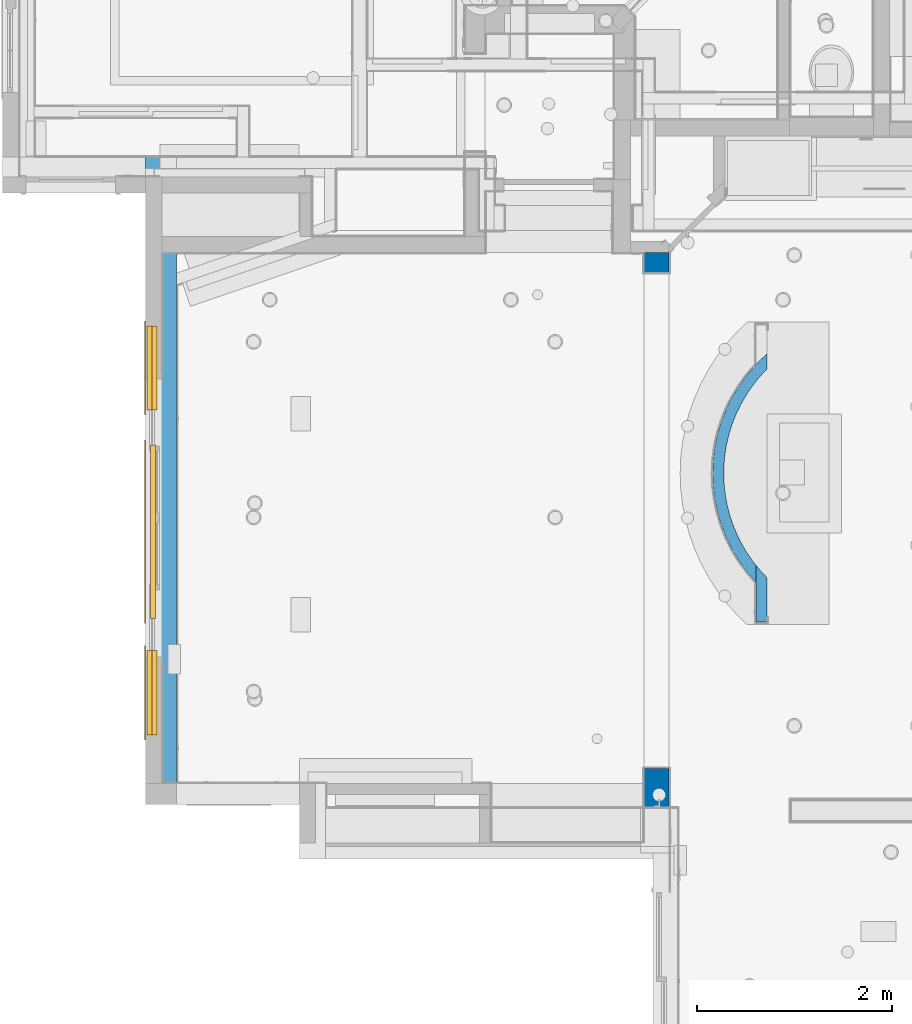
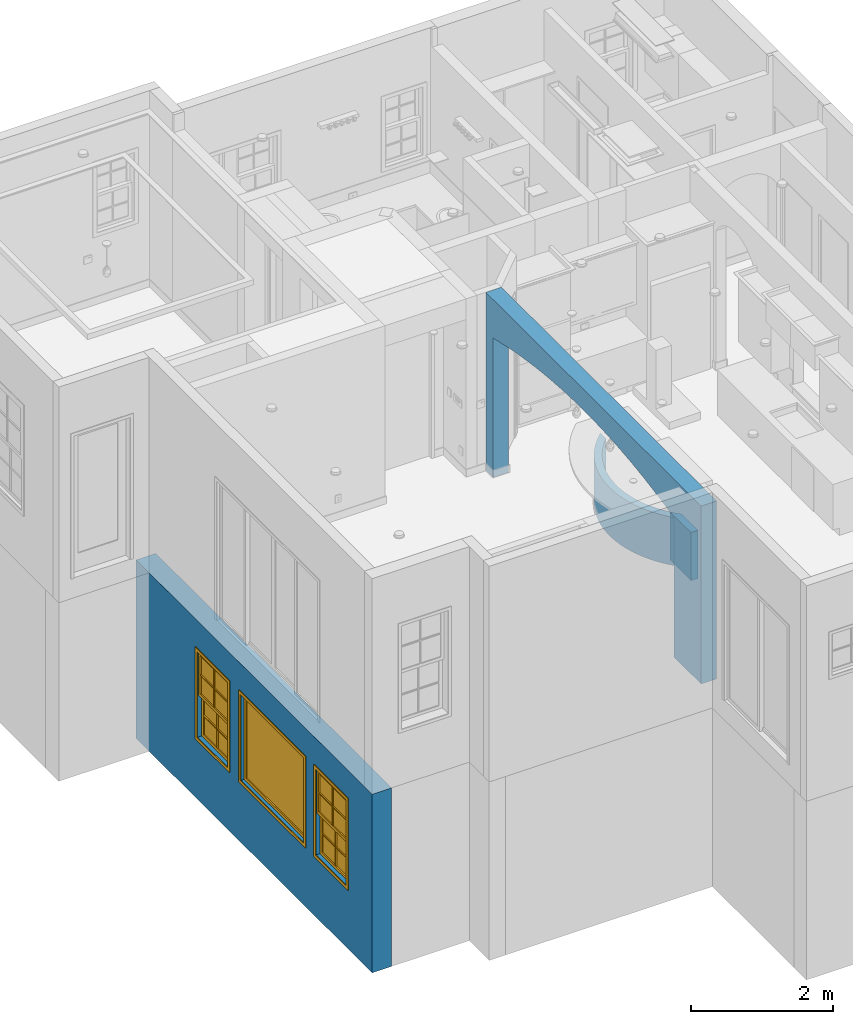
# One storey, part 3 of 81: 4 walls, 3 windows, 5 openings.
"""IFC2X3 building model written with IfcOpenShell, lengths in feet."""

from ifc_helpers import new_model, entity, si_unit, converted_unit, derived_unit, direction, frame, frame_2d, origin, origin_2d_with_axis, place, context, subcontext, project, spatial, polyline, circle_curve, parameter, trimmed, segment, composite_curve, rectangle, outline, extrude, source, transform, mapped, material, material_list, layer, layer_set, layer_usage, type_object, type_shapes, element, fill, save


model = new_model("IFC2X3")

# Units and contexts
model_context = context("Model", 3, precision=0.0001, world=origin(), true_north=direction((6.12303176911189e-17, 1.0)))
body_context = subcontext(model_context, "Body", "Model", "MODEL_VIEW")
ifc_project = project(units=[converted_unit("LENGTHUNIT", "FOOT", entity("IfcRatioMeasure", 0.3048), si_unit("LENGTHUNIT", "METRE"), dimensions=[1, 0, 0, 0, 0, 0, 0]), converted_unit("AREAUNIT", "SQUARE FOOT", entity("IfcRatioMeasure", 0.09290304), si_unit("AREAUNIT", "SQUARE_METRE"), dimensions=[2, 0, 0, 0, 0, 0, 0]), converted_unit("VOLUMEUNIT", "CUBIC FOOT", entity("IfcRatioMeasure", 0.028316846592), si_unit("VOLUMEUNIT", "CUBIC_METRE"), dimensions=[3, 0, 0, 0, 0, 0, 0]), converted_unit("PLANEANGLEUNIT", "DEGREE", entity("IfcRatioMeasure", 0.0174532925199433), si_unit("PLANEANGLEUNIT", "RADIAN"), dimensions=[0, 0, 0, 0, 0, 0, 0]), si_unit("MASSUNIT", "GRAM", prefix="KILO"), derived_unit("MASSDENSITYUNIT", [(si_unit("MASSUNIT", "GRAM", prefix="KILO"), 1), (si_unit("LENGTHUNIT", "METRE"), -3)]), derived_unit("MOMENTOFINERTIAUNIT", [(si_unit("LENGTHUNIT", "METRE"), 4)]), si_unit("TIMEUNIT", "SECOND"), si_unit("FREQUENCYUNIT", "HERTZ"), si_unit("THERMODYNAMICTEMPERATUREUNIT", "DEGREE_CELSIUS"), derived_unit("THERMALTRANSMITTANCEUNIT", [(si_unit("MASSUNIT", "GRAM", prefix="KILO"), 1), (si_unit("THERMODYNAMICTEMPERATUREUNIT", "KELVIN"), -1), (si_unit("TIMEUNIT", "SECOND"), -3)]), derived_unit("VOLUMETRICFLOWRATEUNIT", [(si_unit("LENGTHUNIT", "METRE"), 3), (si_unit("TIMEUNIT", "SECOND"), -1)]), si_unit("ELECTRICCURRENTUNIT", "AMPERE"), si_unit("ELECTRICVOLTAGEUNIT", "VOLT"), si_unit("POWERUNIT", "WATT"), si_unit("FORCEUNIT", "NEWTON"), si_unit("ILLUMINANCEUNIT", "LUX"), si_unit("LUMINOUSFLUXUNIT", "LUMEN"), si_unit("LUMINOUSINTENSITYUNIT", "CANDELA"), derived_unit("USERDEFINED", [(si_unit("MASSUNIT", "GRAM", prefix="KILO"), -1), (si_unit("LENGTHUNIT", "METRE"), -2), (si_unit("TIMEUNIT", "SECOND"), 3), (si_unit("LUMINOUSFLUXUNIT", "LUMEN"), 1)]), derived_unit("LINEARVELOCITYUNIT", [(si_unit("LENGTHUNIT", "METRE"), 1), (si_unit("TIMEUNIT", "SECOND"), -1)]), si_unit("PRESSUREUNIT", "PASCAL"), derived_unit("USERDEFINED", [(si_unit("LENGTHUNIT", "METRE"), -2), (si_unit("MASSUNIT", "GRAM", prefix="KILO"), 1), (si_unit("TIMEUNIT", "SECOND"), -2)]), derived_unit("LINEARFORCEUNIT", [(si_unit("MASSUNIT", "GRAM", prefix="KILO"), 1), (si_unit("LENGTHUNIT", "METRE"), 1), (si_unit("TIMEUNIT", "SECOND"), -2), (si_unit("LENGTHUNIT", "METRE"), -1)]), derived_unit("PLANARFORCEUNIT", [(si_unit("MASSUNIT", "GRAM", prefix="KILO"), 1), (si_unit("LENGTHUNIT", "METRE"), 1), (si_unit("TIMEUNIT", "SECOND"), -2), (si_unit("LENGTHUNIT", "METRE"), -2)])], contexts=[model_context])

# Site, building, storey
site_placement = place(None, origin())
site = spatial("IfcSite", under=ifc_project, at=site_placement, Name="Default", CompositionType="ELEMENT")
building_placement = place(site_placement, origin())
building = spatial("IfcBuilding", under=site, at=building_placement, CompositionType="ELEMENT")
storey_placement = place(building_placement, origin())
storey = spatial("IfcBuildingStorey", under=building, at=storey_placement, Name="First floor", CompositionType="ELEMENT", Elevation=0.0)

# Walls
ifc_material_1 = material(Name="Default New Material")
ifc_layer_1 = layer(ifc_material_1, 0.375)
ifc_layer_set_1 = layer_set([ifc_layer_1], Name="Basic Wall:Wall_4.5\"")
ifc_layer_usage_1 = layer_usage(ifc_layer_set_1, "AXIS2", "NEGATIVE", 0.1875)
wall_type_1 = type_object("IfcWallType", Name="Basic Wall:Wall_4.5\"", PredefinedType="STANDARD", material=ifc_layer_set_1)
wall_1_placement = place(storey_placement, frame((3.64583333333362, 16.625, 10.6666666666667), z_axis=(0.0, 0.0, 1.0), x_axis=(0.0, 1.0, 0.0)))
element("IfcWallStandardCase", 1, at=wall_1_placement, inside=storey, type_object=wall_type_1, material=ifc_layer_usage_1, Name="Basic Wall:Wall_4.5\"", ObjectType="Basic Wall:Wall_4.5\"", context=body_context, shape_type="SweptSolid", body=[
    extrude(outline(composite_curve([segment(trimmed(circle_curve(frame_2d((5.0, -3.68312523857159), x_axis=(0.0, -1.0)), 4.94665501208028), [parameter(218.512414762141)], [parameter(225.035830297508)], True, "PARAMETER"), False, "CONTINUOUS"), segment(polyline([(1.91979609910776, 0.1875), (1.34784004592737, 0.1875)]), True, "CONTINUOUS"), segment(polyline([(1.34784004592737, 0.1875), (0.0, 0.1875)]), True, "CONTINUOUS"), segment(polyline([(0.0, 0.1875), (0.0, -0.1875)]), True, "CONTINUOUS"), segment(polyline([(0.0, -0.1875), (1.49999999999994, -0.1875)]), True, "CONTINUOUS")], self_intersect=False)), origin(), (0.0, 0.0, 1.0), 2.70833333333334),
])
ifc_layer_usage_2 = layer_usage(ifc_layer_set_1, "AXIS2", "POSITIVE", -0.1875)
wall_2_placement = place(storey_placement, frame((3.59470862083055, 18.1015180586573, 10.6666666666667)))
element("IfcWallStandardCase", 2, at=wall_2_placement, inside=storey, type_object=wall_type_1, material=ifc_layer_usage_2, Name="Basic Wall:Wall_4.5\"", ObjectType="Basic Wall:Wall_4.5\"", context=body_context, shape_type="SweptSolid", body=[
    extrude(outline(composite_curve([segment(polyline([(0.23862471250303, 7.53603926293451), (0.0466515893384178, 7.36035962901)]), True, "CONTINUOUS"), segment(polyline([(0.0466515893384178, 7.36035962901), (-0.136340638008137, 7.17567608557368)]), True, "CONTINUOUS"), segment(polyline([(-0.136340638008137, 7.17567608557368), (-0.429268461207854, 6.83786370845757)]), True, "CONTINUOUS"), segment(polyline([(-0.429268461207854, 6.83786370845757), (-0.692789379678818, 6.47667256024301)]), True, "CONTINUOUS"), segment(polyline([(-0.692789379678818, 6.47667256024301), (-0.925061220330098, 6.09463566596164)]), True, "CONTINUOUS"), segment(polyline([(-0.925061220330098, 6.09463566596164), (-1.12444442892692, 5.69444969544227)]), True, "CONTINUOUS"), segment(polyline([(-1.12444442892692, 5.69444969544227), (-1.28953160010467, 5.27893942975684)]), True, "CONTINUOUS"), segment(polyline([(-1.28953160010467, 5.27893942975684), (-1.41915741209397, 4.85103782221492)]), True, "CONTINUOUS"), segment(polyline([(-1.41915741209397, 4.85103782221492), (-1.51240685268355, 4.41376529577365)]), True, "CONTINUOUS"), segment(polyline([(-1.51240685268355, 4.41376529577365), (-1.56862167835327, 3.97020842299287)]), True, "CONTINUOUS"), segment(polyline([(-1.56862167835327, 3.97020842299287), (-1.58740506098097, 3.52349813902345)]), True, "CONTINUOUS"), segment(polyline([(-1.58740506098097, 3.52349813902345), (-1.56862438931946, 3.07678764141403)]), True, "CONTINUOUS"), segment(polyline([(-1.56862438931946, 3.07678764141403), (-1.51241220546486, 2.63323013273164)]), True, "CONTINUOUS"), segment(polyline([(-1.51241220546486, 2.63323013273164), (-1.41916526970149, 2.19595656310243)]), True, "CONTINUOUS"), segment(polyline([(-1.41916526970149, 2.19595656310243), (-1.28954176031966, 1.76805352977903)]), True, "CONTINUOUS"), segment(polyline([(-1.28954176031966, 1.76805352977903), (-1.12445662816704, 1.35254148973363)]), True, "CONTINUOUS"), segment(polyline([(-1.12445662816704, 1.35254148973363), (-0.925075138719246, 0.952353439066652)]), True, "CONTINUOUS"), segment(polyline([(-0.925075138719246, 0.952353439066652), (-0.692804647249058, 0.570314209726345)]), True, "CONTINUOUS"), segment(polyline([(-0.692804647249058, 0.570314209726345), (-0.429284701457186, 0.209120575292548)]), True, "CONTINUOUS"), segment(polyline([(-0.429284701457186, 0.209120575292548), (-0.136375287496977, -0.1286780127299)]), True, "CONTINUOUS"), segment(polyline([(-0.136375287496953, -0.128678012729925), (-0.136375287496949, 0.443278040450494)]), True, "CONTINUOUS"), segment(trimmed(circle_curve(frame_2d((3.73424995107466, 3.52348194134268), x_axis=(1.0, 0.0)), 4.94665501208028), [parameter(134.964169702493)], [parameter(218.512414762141)], True, "PARAMETER"), False, "CONTINUOUS"), segment(polyline([(0.238624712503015, 7.02348194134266), (0.238624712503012, 7.53603926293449)]), True, "CONTINUOUS")], self_intersect=False)), origin(), (0.0, 0.0, 1.0), 2.70833333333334),
])

# Wall, openings
ifc_layer_2 = layer(ifc_material_1, 0.833333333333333)
ifc_layer_set_2 = layer_set([ifc_layer_2], Name="Basic Wall:Wall_10\"")
ifc_layer_usage_3 = layer_usage(ifc_layer_set_2, "AXIS2", "POSITIVE", -0.416666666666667)
wall_type_2 = type_object("IfcWallType", Name="Basic Wall:Wall_10\"", PredefinedType="STANDARD", material=ifc_layer_set_2)
wall_3_placement = place(storey_placement, frame((0.125000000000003, 9.20833333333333, 10.6666666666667), z_axis=(0.0, 0.0, 1.0), x_axis=(0.0, 1.0, 0.0)))
wall_3 = element("IfcWallStandardCase", 3, at=wall_3_placement, inside=storey, type_object=wall_type_2, material=ifc_layer_usage_3, Name="Basic Wall:Wall_10\"", ObjectType="Basic Wall:Wall_10\"", context=body_context, shape_type="SweptSolid", body=[
    extrude(rectangle(XDim=19.8333333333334, YDim=0.833333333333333, at=frame_2d((9.91666666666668, -8.32667268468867e-17), x_axis=(-1.0, 0.0))), origin(), (0.0, 0.0, 1.0), 10.0),
])
opening_1_placement = place(wall_3_placement, origin())
element("IfcOpeningElement", 4, at=opening_1_placement, cuts=wall_3, Name="Basic Wall:Wall_10\"", ObjectType="Opening", context=body_context, shape_type="SweptSolid", body=[
    extrude(outline(composite_curve([segment(trimmed(circle_curve(frame_2d((30.3055555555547, 0.0), x_axis=(1.0, 0.0)), 35.2222222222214), [parameter(166.314453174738)], [parameter(193.685546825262)], True, "PARAMETER"), True, "CONTINUOUS"), segment(polyline([(-3.91666666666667, -8.33333333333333), (3.91666666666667, -8.33333333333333)]), True, "CONTINUOUS"), segment(polyline([(3.91666666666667, -8.33333333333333), (3.91666666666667, 8.33333333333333)]), True, "CONTINUOUS"), segment(polyline([(3.91666666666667, 8.33333333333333), (-3.91666666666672, 8.33333333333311)]), True, "CONTINUOUS")], self_intersect=False)), frame((10.8333333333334, -0.416666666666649, 3.91666666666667), z_axis=(0.0, 1.0, 0.0), x_axis=(0.0, 0.0, -1.0)), (0.0, 0.0, 1.0), 0.833333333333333),
])
opening_2_placement = place(wall_3_placement, origin())
element("IfcOpeningElement", 5, at=opening_2_placement, cuts=wall_3, Name="Basic Wall:Wall_10\"", ObjectType="Recess", context=body_context, shape_type="SweptSolid", body=[
    extrude(rectangle(XDim=8.0, YDim=2.0, at=frame_2d((-1.99840144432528e-15, -8.88178419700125e-16), x_axis=(0.0, 1.0))), frame((20.6878439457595, -1.27117727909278, 4.0), z_axis=(0.707106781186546, 0.707106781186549, 0.0), x_axis=(-0.707106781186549, 0.707106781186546, 0.0)), (0.0, 0.0, 1.0), 0.374999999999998),
])

# Wall, openings, windows
ifc_layer_3 = layer(ifc_material_1, 1.04166666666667)
ifc_layer_set_3 = layer_set([ifc_layer_3], Name="Basic Wall:Wall_1'1/2\"")
ifc_layer_usage_4 = layer_usage(ifc_layer_set_3, "AXIS2", "POSITIVE", -0.520833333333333)
wall_type_3 = type_object("IfcWallType", Name="Basic Wall:Wall_1'1/2\"", PredefinedType="STANDARD", material=ifc_layer_set_3)
wall_4_placement = place(storey_placement, frame((-16.5208333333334, 32.25, -0.5), z_axis=(0.0, 0.0, 1.0), x_axis=(0.0, -1.0, 0.0)))
wall_4 = element("IfcWallStandardCase", 6, at=wall_4_placement, inside=storey, type_object=wall_type_3, material=ifc_layer_usage_4, Name="Basic Wall:Wall_1'1/2\"", ObjectType="Basic Wall:Wall_1'1/2\"", context=body_context, shape_type="SweptSolid", body=[
    extrude(rectangle(XDim=21.75, YDim=1.04166666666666, at=frame_2d((10.875, 0.0), x_axis=(-1.0, 0.0))), origin(), (0.0, 0.0, 1.0), 10.0416666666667),
])
opening_3_placement = place(wall_4_placement, frame((19.4166666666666, 0.520833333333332, 3.5)))
opening_3 = element("IfcOpeningElement", 7, at=opening_3_placement, cuts=wall_4, Name="Window_4:2'-10\" X 4'-10\":1", ObjectType="Opening", context=body_context, shape_type="SweptSolid", body=[
    extrude(rectangle(XDim=4.83333333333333, YDim=2.83333333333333, at=frame_2d((2.41666666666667, 1.41666666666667), x_axis=(-1.0, 0.0))), frame((0.0, 0.0, 0.0), z_axis=(0.0, -1.0, 0.0), x_axis=(0.0, 0.0, 1.0)), (0.0, 0.0, 1.0), 1.04166666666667),
])
opening_4_placement = place(wall_4_placement, frame((15.5, 0.520833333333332, 3.5)))
opening_4 = element("IfcOpeningElement", 8, at=opening_4_placement, cuts=wall_4, Name="Window_1:5'-10\" X 4'-10\":1", ObjectType="Opening", context=body_context, shape_type="SweptSolid", body=[
    extrude(rectangle(XDim=4.83333333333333, YDim=5.83333333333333, at=frame_2d((2.41666666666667, 2.91666666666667), x_axis=(-1.0, 0.0))), frame((0.0, 0.0, 0.0), z_axis=(0.0, -1.0, 0.0), x_axis=(0.0, 0.0, 1.0)), (0.0, 0.0, 1.0), 1.04166666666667),
])
opening_5_placement = place(wall_4_placement, frame((8.49999999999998, 0.520833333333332, 3.5)))
opening_5 = element("IfcOpeningElement", 9, at=opening_5_placement, cuts=wall_4, Name="Window_4:2'-10\" X 4'-10\":1", ObjectType="Opening", context=body_context, shape_type="SweptSolid", body=[
    extrude(rectangle(XDim=4.83333333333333, YDim=2.83333333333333, at=frame_2d((2.41666666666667, 1.41666666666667), x_axis=(-1.0, 0.0))), frame((0.0, 0.0, 0.0), z_axis=(0.0, -1.0, 0.0), x_axis=(0.0, 0.0, 1.0)), (0.0, 0.0, 1.0), 1.04166666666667),
])
ifc_material_2 = material(Name="Glass")
ifc_material_list_1 = material_list([ifc_material_1, ifc_material_2])
ifc_material_3 = material(Name="Trim")
ifc_material_4 = material(Name="Sash")
ifc_material_list_2 = material_list([ifc_material_2, ifc_material_3, ifc_material_3, ifc_material_4, ifc_material_1])
window_style_1 = type_object("IfcWindowStyle", Name="Window_4:2'-10\" X 4'-10\"", ConstructionType="NOTDEFINED", OperationType="NOTDEFINED", ParameterTakesPrecedence=False, Sizeable=False, material=ifc_material_list_2)
shared_shape_1 = source(origin(), body_context, "Body", "SweptSolid", [
    extrude(outline(polyline([(-1.41666666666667, -1.24479166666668), (1.41666666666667, -1.24479166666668), (1.41666666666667, 1.24479166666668), (-1.41666666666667, 1.24479166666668), (-1.41666666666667, -1.24479166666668)]), holes=[polyline([(0.0247395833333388, -1.078125), (0.0247395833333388, -0.0130208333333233), (1.25, -0.0130208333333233), (1.25, -1.078125), (0.0247395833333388, -1.078125)]), polyline([(0.0247395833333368, 1.07812500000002), (1.25, 1.07812500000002), (1.25, 0.0364583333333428), (0.0247395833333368, 0.0364583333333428), (0.0247395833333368, 1.07812500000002)]), polyline([(-1.24999999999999, -0.0130208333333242), (-0.0247395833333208, -0.0130208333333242), (-0.0247395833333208, -1.078125), (-1.24999999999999, -1.078125), (-1.24999999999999, -0.0130208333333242)]), polyline([(-1.24999999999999, 1.07812499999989), (-0.0247395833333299, 1.07812499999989), (-0.0247395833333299, 0.0364583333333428), (-1.24999999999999, 0.0364583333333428), (-1.24999999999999, 1.07812499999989)])]), frame((1.41666666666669, 1.0, 3.58854166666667), z_axis=(0.0, -1.0, 0.0), x_axis=(-1.0, 0.0, 0.0)), (0.0, 0.0, 1.0), 0.166666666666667),
    extrude(rectangle(XDim=1.22526041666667, YDim=0.0435871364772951, at=frame_2d((0.0, 2.77555756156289e-17), x_axis=(1.0, 0.0))), frame((0.779296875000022, 0.917626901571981, 3.6015625)), (0.0, 0.0, 1.0), 1.06510416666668),
    extrude(rectangle(XDim=1.22526041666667, YDim=0.0435871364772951, at=frame_2d((5.55111512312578e-17, 2.77555756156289e-17), x_axis=(1.0, 0.0))), frame((2.05403645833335, 0.917626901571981, 3.6015625)), (0.0, 0.0, 1.0), 1.06510416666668),
    extrude(rectangle(XDim=1.22526041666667, YDim=0.0435871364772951, at=frame_2d((0.0, 2.77555756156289e-17), x_axis=(1.0, 0.0))), frame((0.779296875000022, 0.917626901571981, 2.51041666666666)), (0.0, 0.0, 1.0), 1.04166666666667),
    extrude(rectangle(XDim=1.22526041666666, YDim=0.0435871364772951, at=frame_2d((-1.11022302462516e-16, 2.77555756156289e-17), x_axis=(1.0, 0.0))), frame((2.05403645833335, 0.917626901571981, 2.51041666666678)), (0.0, 0.0, 1.0), 1.04166666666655),
    extrude(rectangle(XDim=1.22526041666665, YDim=0.0416666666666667, at=origin_2d_with_axis()), frame((2.05403645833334, 0.75, 0.166666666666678), z_axis=(0.0, 0.0, 1.0), x_axis=(-1.0, 0.0, 0.0)), (0.0, 0.0, 1.0), 1.04166666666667),
    extrude(rectangle(XDim=1.22526041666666, YDim=0.0416666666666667, at=origin_2d_with_axis()), frame((0.779296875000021, 0.75, 1.25781250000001), z_axis=(0.0, 0.0, 1.0), x_axis=(-1.0, 0.0, 0.0)), (0.0, 0.0, 1.0), 1.08593749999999),
    extrude(rectangle(XDim=1.22526041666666, YDim=0.0416666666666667, at=origin_2d_with_axis()), frame((0.779296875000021, 0.75, 0.166666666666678), z_axis=(0.0, 0.0, 1.0), x_axis=(-1.0, 0.0, 0.0)), (0.0, 0.0, 1.0), 1.04166666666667),
    extrude(rectangle(XDim=1.22526041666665, YDim=0.0416666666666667, at=origin_2d_with_axis()), frame((2.05403645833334, 0.75, 1.25781250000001), z_axis=(0.0, 0.0, 1.0), x_axis=(-1.0, 0.0, 0.0)), (0.0, 0.0, 1.0), 1.08593749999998),
    extrude(outline(polyline([(-1.41666666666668, -1.25520833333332), (1.41666666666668, -1.25520833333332), (1.41666666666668, 1.25520833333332), (-1.41666666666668, 1.25520833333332), (-1.41666666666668, -1.25520833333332)]), holes=[polyline([(-1.24999999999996, -0.0026041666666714), (-0.0247395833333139, -0.0026041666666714), (-0.0247395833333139, -1.08854166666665), (-1.24999999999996, -1.08854166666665), (-1.24999999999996, -0.0026041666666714)]), polyline([(0.0247395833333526, 1.08854166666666), (1.25000000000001, 1.08854166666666), (1.25000000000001, 0.0468749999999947), (0.0247395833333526, 0.0468749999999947), (0.0247395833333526, 1.08854166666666)]), polyline([(-1.24999999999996, 1.08854166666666), (-0.0247395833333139, 1.08854166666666), (-0.0247395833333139, 0.0468749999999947), (-1.24999999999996, 0.0468749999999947), (-1.24999999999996, 1.08854166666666)]), polyline([(0.0247395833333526, -1.08854166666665), (0.0247395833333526, -0.00260416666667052), (1.25000000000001, -0.00260416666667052), (1.25000000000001, -1.08854166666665), (0.0247395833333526, -1.08854166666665)])]), frame((1.4166666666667, 0.833333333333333, 1.25520833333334), z_axis=(0.0, -1.0, 0.0), x_axis=(-1.0, 0.0, 0.0)), (0.0, 0.0, 1.0), 0.166666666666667),
    extrude(outline(polyline([(-1.58333333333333, -2.58333333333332), (1.58333333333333, -2.58333333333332), (1.58333333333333, 2.58333333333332), (-1.58333333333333, 2.58333333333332), (-1.58333333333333, -2.58333333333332)]), holes=[polyline([(-1.41666666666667, -2.41666666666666), (-1.41666666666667, 2.41666666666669), (1.41666666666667, 2.41666666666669), (1.41666666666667, -2.41666666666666), (-1.41666666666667, -2.41666666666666)])]), frame((1.41666666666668, 0.0, 2.41666666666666), z_axis=(0.0, -1.0, 0.0), x_axis=(1.0, 0.0, 0.0)), (0.0, 0.0, 1.0), 0.0416666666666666),
    extrude(outline(polyline([(-1.58333333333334, -2.58333333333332), (1.58333333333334, -2.58333333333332), (1.58333333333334, 2.58333333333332), (-1.58333333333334, 2.58333333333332), (-1.58333333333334, -2.58333333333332)]), holes=[polyline([(-1.41666666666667, -2.41666666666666), (-1.41666666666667, 2.41666666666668), (1.41666666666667, 2.41666666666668), (1.41666666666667, -2.41666666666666), (-1.41666666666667, -2.41666666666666)])]), frame((1.41666666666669, 1.08333333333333, 2.41666666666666), z_axis=(0.0, -1.0, 0.0), x_axis=(1.0, 0.0, 0.0)), (0.0, 0.0, 1.0), 0.0416666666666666),
])
type_shapes(window_style_1, [shared_shape_1])
window_1_placement = place(opening_3_placement, frame((0.0, 0.0, 0.0), z_axis=(0.0, 0.0, 1.0), x_axis=(-1.0, 0.0, 0.0)))
window_1 = element("IfcWindow", 10, at=window_1_placement, inside=storey, type_object=window_style_1, material=ifc_material_list_1, Name="Window_4:2'-10\" X 4'-10\"", ObjectType="Window_4:2'-10\" X 4'-10\"", OverallHeight=4.83333333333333, OverallWidth=2.83333333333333, context=body_context, shape_type="MappedRepresentation", body=[
    mapped(shared_shape_1, transform((0.0, 0.0, 0.0), scale=1.0)),
])
fill(opening_3, window_1)
ifc_material_list_3 = material_list([ifc_material_2, ifc_material_1])
ifc_material_list_4 = material_list([ifc_material_1, ifc_material_1, ifc_material_2])
window_style_2 = type_object("IfcWindowStyle", Name="Window_1:5'-10\" X 4'-10\"", ConstructionType="NOTDEFINED", OperationType="NOTDEFINED", ParameterTakesPrecedence=False, Sizeable=False, material=ifc_material_list_4)
shared_shape_2 = source(origin(), body_context, "Body", "SweptSolid", [
    extrude(rectangle(XDim=0.0416666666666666, YDim=5.49999999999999, at=origin_2d_with_axis()), frame((2.91666666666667, 0.791666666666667, 0.166666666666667), z_axis=(0.0, 0.0, 1.0), x_axis=(0.0, 1.0, 0.0)), (0.0, 0.0, 1.0), 4.50000000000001),
    extrude(outline(polyline([(-2.91666666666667, -2.41666666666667), (2.91666666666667, -2.41666666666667), (2.91666666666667, 2.41666666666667), (-2.91666666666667, 2.41666666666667), (-2.91666666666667, -2.41666666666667)]), holes=[polyline([(-2.75, -2.25), (-2.75, 2.25000000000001), (2.75, 2.25000000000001), (2.75, -2.25), (-2.75, -2.25)])]), frame((2.91666666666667, 0.708333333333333, 2.41666666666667), z_axis=(0.0, 1.0, 0.0), x_axis=(1.0, 0.0, 0.0)), (0.0, 0.0, 1.0), 0.166666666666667),
    extrude(outline(polyline([(-3.08333333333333, -2.58333333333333), (3.08333333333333, -2.58333333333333), (3.08333333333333, 2.58333333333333), (-3.08333333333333, 2.58333333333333), (-3.08333333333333, -2.58333333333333)]), holes=[polyline([(-2.91666666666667, -2.41666666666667), (-2.91666666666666, 2.41666666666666), (2.91666666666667, 2.41666666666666), (2.91666666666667, -2.41666666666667), (-2.91666666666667, -2.41666666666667)])]), frame((2.91666666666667, 1.04166666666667, 2.41666666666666), z_axis=(0.0, 1.0, 0.0), x_axis=(1.0, 0.0, 0.0)), (0.0, 0.0, 1.0), 0.0416666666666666),
    extrude(outline(polyline([(-3.08333333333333, -2.58333333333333), (3.08333333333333, -2.58333333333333), (3.08333333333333, 2.58333333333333), (-3.08333333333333, 2.58333333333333), (-3.08333333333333, -2.58333333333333)]), holes=[polyline([(2.91666666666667, 2.41666666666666), (2.91666666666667, -2.41666666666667), (-2.91666666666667, -2.41666666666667), (-2.91666666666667, 2.41666666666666), (2.91666666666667, 2.41666666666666)])]), frame((2.91666666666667, -0.0416666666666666, 2.41666666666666), z_axis=(0.0, 1.0, 0.0), x_axis=(1.0, 0.0, 0.0)), (0.0, 0.0, 1.0), 0.0416666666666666),
])
type_shapes(window_style_2, [shared_shape_2])
window_2_placement = place(opening_4_placement, frame((0.0, 0.0, 0.0), z_axis=(0.0, 0.0, 1.0), x_axis=(-1.0, 0.0, 0.0)))
window_2 = element("IfcWindow", 11, at=window_2_placement, inside=storey, type_object=window_style_2, material=ifc_material_list_3, Name="Window_1:5'-10\" X 4'-10\"", ObjectType="Window_1:5'-10\" X 4'-10\"", OverallHeight=4.83333333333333, OverallWidth=5.83333333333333, context=body_context, shape_type="MappedRepresentation", body=[
    mapped(shared_shape_2, transform((0.0, 0.0, 0.0), scale=1.0)),
])
fill(opening_4, window_2)
ifc_material_list_5 = material_list([ifc_material_1, ifc_material_2])
ifc_material_list_6 = material_list([ifc_material_2, ifc_material_3, ifc_material_3, ifc_material_4, ifc_material_1])
window_style_3 = type_object("IfcWindowStyle", Name="Window_4:2'-10\" X 4'-10\"", ConstructionType="NOTDEFINED", OperationType="NOTDEFINED", ParameterTakesPrecedence=False, Sizeable=False, material=ifc_material_list_6)
shared_shape_3 = source(origin(), body_context, "Body", "SweptSolid", [
    extrude(outline(polyline([(-1.41666666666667, -1.24479166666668), (1.41666666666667, -1.24479166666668), (1.41666666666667, 1.24479166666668), (-1.41666666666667, 1.24479166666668), (-1.41666666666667, -1.24479166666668)]), holes=[polyline([(0.0247395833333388, -1.078125), (0.0247395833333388, -0.0130208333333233), (1.25, -0.0130208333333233), (1.25, -1.078125), (0.0247395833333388, -1.078125)]), polyline([(0.0247395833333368, 1.07812500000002), (1.25, 1.07812500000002), (1.25, 0.0364583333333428), (0.0247395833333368, 0.0364583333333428), (0.0247395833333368, 1.07812500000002)]), polyline([(-1.24999999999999, -0.0130208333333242), (-0.0247395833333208, -0.0130208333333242), (-0.0247395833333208, -1.078125), (-1.24999999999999, -1.078125), (-1.24999999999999, -0.0130208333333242)]), polyline([(-1.24999999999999, 1.07812499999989), (-0.0247395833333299, 1.07812499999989), (-0.0247395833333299, 0.0364583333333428), (-1.24999999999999, 0.0364583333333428), (-1.24999999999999, 1.07812499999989)])]), frame((1.41666666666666, 0.833333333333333, 3.58854166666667), z_axis=(0.0, 1.0, 0.0), x_axis=(1.0, 0.0, 0.0)), (0.0, 0.0, 1.0), 0.166666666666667),
    extrude(rectangle(XDim=0.0435871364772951, YDim=1.22526041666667, at=frame_2d((-2.77555756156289e-17, 0.0), x_axis=(1.0, 0.0))), frame((2.05403645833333, 0.917626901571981, 3.6015625), z_axis=(0.0, 0.0, 1.0), x_axis=(0.0, 1.0, 0.0)), (0.0, 0.0, 1.0), 1.06510416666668),
    extrude(rectangle(XDim=0.0435871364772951, YDim=1.22526041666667, at=frame_2d((-2.77555756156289e-17, 0.0), x_axis=(1.0, 0.0))), frame((0.779296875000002, 0.917626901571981, 3.6015625), z_axis=(0.0, 0.0, 1.0), x_axis=(0.0, 1.0, 0.0)), (0.0, 0.0, 1.0), 1.06510416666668),
    extrude(rectangle(XDim=0.0435871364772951, YDim=1.22526041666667, at=frame_2d((-2.77555756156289e-17, 0.0), x_axis=(1.0, 0.0))), frame((2.05403645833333, 0.917626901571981, 2.51041666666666), z_axis=(0.0, 0.0, 1.0), x_axis=(0.0, 1.0, 0.0)), (0.0, 0.0, 1.0), 1.04166666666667),
    extrude(rectangle(XDim=0.0435871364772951, YDim=1.22526041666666, at=frame_2d((-2.77555756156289e-17, 0.0), x_axis=(1.0, 0.0))), frame((0.779296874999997, 0.917626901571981, 2.51041666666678), z_axis=(0.0, 0.0, 1.0), x_axis=(0.0, 1.0, 0.0)), (0.0, 0.0, 1.0), 1.04166666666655),
    extrude(rectangle(XDim=0.0416666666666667, YDim=1.22526041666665, at=origin_2d_with_axis()), frame((0.779296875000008, 0.75, 0.166666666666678), z_axis=(0.0, 0.0, 1.0), x_axis=(0.0, -1.0, 0.0)), (0.0, 0.0, 1.0), 1.04166666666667),
    extrude(rectangle(XDim=0.0416666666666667, YDim=1.22526041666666, at=origin_2d_with_axis()), frame((2.05403645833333, 0.75, 1.25781250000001), z_axis=(0.0, 0.0, 1.0), x_axis=(0.0, -1.0, 0.0)), (0.0, 0.0, 1.0), 1.08593749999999),
    extrude(rectangle(XDim=0.0416666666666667, YDim=1.22526041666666, at=origin_2d_with_axis()), frame((2.05403645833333, 0.75, 0.166666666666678), z_axis=(0.0, 0.0, 1.0), x_axis=(0.0, -1.0, 0.0)), (0.0, 0.0, 1.0), 1.04166666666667),
    extrude(rectangle(XDim=0.0416666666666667, YDim=1.22526041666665, at=origin_2d_with_axis()), frame((0.779296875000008, 0.75, 1.25781250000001), z_axis=(0.0, 0.0, 1.0), x_axis=(0.0, -1.0, 0.0)), (0.0, 0.0, 1.0), 1.08593749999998),
    extrude(outline(polyline([(-1.41666666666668, -1.25520833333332), (1.41666666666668, -1.25520833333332), (1.41666666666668, 1.25520833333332), (-1.41666666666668, 1.25520833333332), (-1.41666666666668, -1.25520833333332)]), holes=[polyline([(0.0247395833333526, 1.08854166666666), (1.25000000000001, 1.08854166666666), (1.25000000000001, 0.0468749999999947), (0.0247395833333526, 0.0468749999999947), (0.0247395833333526, 1.08854166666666)]), polyline([(-1.24999999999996, -0.0026041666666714), (-0.0247395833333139, -0.0026041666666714), (-0.0247395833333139, -1.08854166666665), (-1.24999999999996, -1.08854166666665), (-1.24999999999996, -0.0026041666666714)]), polyline([(-1.24999999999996, 1.08854166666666), (-0.0247395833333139, 1.08854166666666), (-0.0247395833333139, 0.0468749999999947), (-1.24999999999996, 0.0468749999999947), (-1.24999999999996, 1.08854166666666)]), polyline([(0.0247395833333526, -1.08854166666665), (0.0247395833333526, -0.00260416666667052), (1.25000000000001, -0.00260416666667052), (1.25000000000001, -1.08854166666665), (0.0247395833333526, -1.08854166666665)])]), frame((1.41666666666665, 0.666666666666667, 1.25520833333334), z_axis=(0.0, 1.0, 0.0), x_axis=(1.0, 0.0, 0.0)), (0.0, 0.0, 1.0), 0.166666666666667),
    extrude(outline(polyline([(-1.58333333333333, -2.58333333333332), (1.58333333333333, -2.58333333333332), (1.58333333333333, 2.58333333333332), (-1.58333333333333, 2.58333333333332), (-1.58333333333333, -2.58333333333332)]), holes=[polyline([(-1.41666666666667, -2.41666666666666), (-1.41666666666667, 2.41666666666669), (1.41666666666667, 2.41666666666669), (1.41666666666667, -2.41666666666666), (-1.41666666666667, -2.41666666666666)])]), frame((1.41666666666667, -0.0416666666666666, 2.41666666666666), z_axis=(0.0, 1.0, 0.0), x_axis=(-1.0, 0.0, 0.0)), (0.0, 0.0, 1.0), 0.0416666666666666),
    extrude(outline(polyline([(-1.58333333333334, -2.58333333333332), (1.58333333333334, -2.58333333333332), (1.58333333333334, 2.58333333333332), (-1.58333333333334, 2.58333333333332), (-1.58333333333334, -2.58333333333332)]), holes=[polyline([(-1.41666666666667, -2.41666666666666), (-1.41666666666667, 2.41666666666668), (1.41666666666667, 2.41666666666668), (1.41666666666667, -2.41666666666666), (-1.41666666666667, -2.41666666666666)])]), frame((1.41666666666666, 1.04166666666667, 2.41666666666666), z_axis=(0.0, 1.0, 0.0), x_axis=(-1.0, 0.0, 0.0)), (0.0, 0.0, 1.0), 0.0416666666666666),
])
type_shapes(window_style_3, [shared_shape_3])
window_3_placement = place(opening_5_placement, frame((0.0, 0.0, 0.0), z_axis=(0.0, 0.0, 1.0), x_axis=(-1.0, 0.0, 0.0)))
window_3 = element("IfcWindow", 12, at=window_3_placement, inside=storey, type_object=window_style_3, material=ifc_material_list_5, Name="Window_4:2'-10\" X 4'-10\"", ObjectType="Window_4:2'-10\" X 4'-10\"", OverallHeight=4.83333333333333, OverallWidth=2.83333333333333, context=body_context, shape_type="MappedRepresentation", body=[
    mapped(shared_shape_3, transform((0.0, 0.0, 0.0), scale=1.0)),
])
fill(opening_5, window_3)

save(model, "model.ifc")
